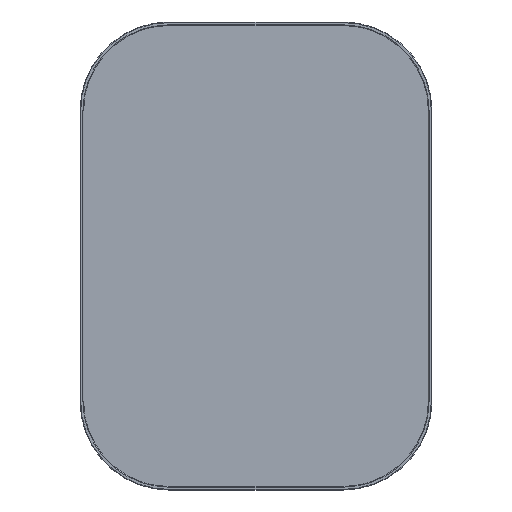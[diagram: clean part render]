
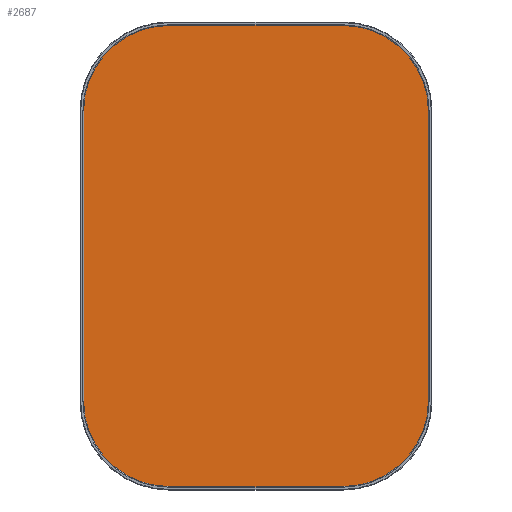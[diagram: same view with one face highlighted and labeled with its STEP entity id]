
A CAD part, front view. The second image highlights one B-rep face of the part: STEP entity #2687.
In plain terms, the highlighted planar face has unit normal (0, -1, 0).
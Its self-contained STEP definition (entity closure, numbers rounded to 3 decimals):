
#136=CIRCLE('',#2957,149.);
#137=CIRCLE('',#2958,149.);
#138=CIRCLE('',#2959,149.);
#139=CIRCLE('',#2960,149.);
#580=ORIENTED_EDGE('',*,*,#1212,.T.);
#581=ORIENTED_EDGE('',*,*,#1213,.T.);
#582=ORIENTED_EDGE('',*,*,#1214,.T.);
#583=ORIENTED_EDGE('',*,*,#1215,.T.);
#584=ORIENTED_EDGE('',*,*,#1216,.T.);
#585=ORIENTED_EDGE('',*,*,#1217,.T.);
#586=ORIENTED_EDGE('',*,*,#1218,.T.);
#587=ORIENTED_EDGE('',*,*,#1219,.T.);
#1212=EDGE_CURVE('',#1540,#1541,#136,.T.);
#1213=EDGE_CURVE('',#1541,#1542,#1772,.T.);
#1214=EDGE_CURVE('',#1542,#1543,#137,.T.);
#1215=EDGE_CURVE('',#1543,#1544,#1773,.T.);
#1216=EDGE_CURVE('',#1544,#1545,#138,.T.);
#1217=EDGE_CURVE('',#1545,#1546,#1774,.T.);
#1218=EDGE_CURVE('',#1546,#1547,#139,.T.);
#1219=EDGE_CURVE('',#1547,#1540,#1775,.T.);
#1540=VERTEX_POINT('',#4287);
#1541=VERTEX_POINT('',#4288);
#1542=VERTEX_POINT('',#4290);
#1543=VERTEX_POINT('',#4292);
#1544=VERTEX_POINT('',#4294);
#1545=VERTEX_POINT('',#4296);
#1546=VERTEX_POINT('',#4298);
#1547=VERTEX_POINT('',#4300);
#1772=LINE('',#4289,#2016);
#1773=LINE('',#4293,#2017);
#1774=LINE('',#4297,#2018);
#1775=LINE('',#4301,#2019);
#2016=VECTOR('',#3493,1000.);
#2017=VECTOR('',#3496,1000.);
#2018=VECTOR('',#3499,1000.);
#2019=VECTOR('',#3502,1000.);
#2251=EDGE_LOOP('',(#580,#581,#582,#583,#584,#585,#586,#587));
#2437=FACE_BOUND('',#2251,.T.);
#2572=PLANE('',#2956);
#2687=ADVANCED_FACE('',(#2437),#2572,.T.);
#2956=AXIS2_PLACEMENT_3D('',#4285,#3489,#3490);
#2957=AXIS2_PLACEMENT_3D('',#4286,#3491,#3492);
#2958=AXIS2_PLACEMENT_3D('',#4291,#3494,#3495);
#2959=AXIS2_PLACEMENT_3D('',#4295,#3497,#3498);
#2960=AXIS2_PLACEMENT_3D('',#4299,#3500,#3501);
#3489=DIRECTION('',(0.,-1.,0.));
#3490=DIRECTION('',(0.,0.,-1.));
#3491=DIRECTION('',(0.,-1.,0.));
#3492=DIRECTION('',(0.,0.,-1.));
#3493=DIRECTION('',(0.,0.,1.));
#3494=DIRECTION('',(0.,-1.,0.));
#3495=DIRECTION('',(0.,0.,-1.));
#3496=DIRECTION('',(-1.,0.,0.));
#3497=DIRECTION('',(0.,-1.,0.));
#3498=DIRECTION('',(0.,0.,-1.));
#3499=DIRECTION('',(0.,0.,-1.));
#3500=DIRECTION('',(0.,-1.,0.));
#3501=DIRECTION('',(0.,0.,-1.));
#3502=DIRECTION('',(1.,0.,0.));
#4285=CARTESIAN_POINT('',(473.06,0.,168.488));
#4286=CARTESIAN_POINT('',(473.06,0.,168.488));
#4287=CARTESIAN_POINT('',(473.06,0.,19.488));
#4288=CARTESIAN_POINT('',(622.06,0.,168.488));
#4289=CARTESIAN_POINT('',(622.06,0.,168.488));
#4290=CARTESIAN_POINT('',(622.06,0.,668.488));
#4291=CARTESIAN_POINT('',(473.06,0.,668.488));
#4292=CARTESIAN_POINT('',(473.06,0.,817.488));
#4293=CARTESIAN_POINT('',(473.06,0.,817.488));
#4294=CARTESIAN_POINT('',(173.06,0.,817.488));
#4295=CARTESIAN_POINT('',(173.06,0.,668.488));
#4296=CARTESIAN_POINT('',(24.06,0.,668.488));
#4297=CARTESIAN_POINT('',(24.06,0.,168.488));
#4298=CARTESIAN_POINT('',(24.06,0.,168.488));
#4299=CARTESIAN_POINT('',(173.06,0.,168.488));
#4300=CARTESIAN_POINT('',(173.06,0.,19.488));
#4301=CARTESIAN_POINT('',(473.06,0.,19.488));
